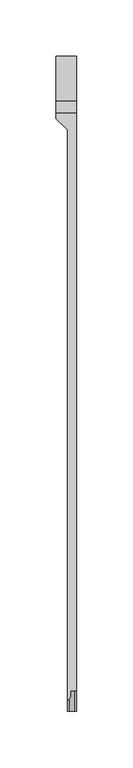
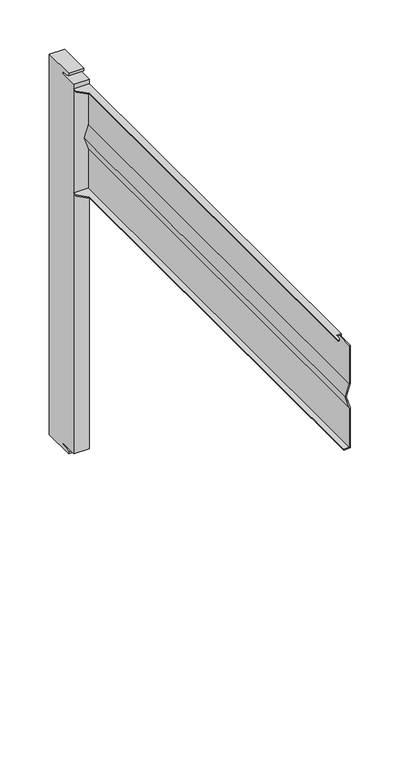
"""IFC4 building model written with IfcOpenShell, lengths in millimetres: proxy geometry, 046542_Motorhalterung."""

import ifcopenshell
import ifcopenshell.guid

model = None  # the IFC model being written
_history = None  # IfcOwnerHistory: only IFC2X3 demands one
_inside = {}  # id of a spatial element -> (the spatial element, [elements in it])
_under = {}  # id of a project, library or spatial element -> (it, [spatial elements below it])
_declared = {}  # id of a project -> (the project, [libraries it declares])
_typed = {}  # id of a type object -> (the type object, [elements of that type])
_made_of = {}  # id of a material, layer set ... -> (it, [elements and type objects made of it])


def new_model(schema):
    """Start an empty IFC model of exactly this schema.

    Asked for "IFC4X3", IfcOpenShell would pick the latest addendum, in which some entities
    have other attributes; the version numbers below select the first issue.
    IFC2X3 requires an IfcOwnerHistory on every rooted entity: one is made here for all.
    """
    global model, _history
    if schema == "IFC4X3":
        model = ifcopenshell.file(schema_version=(4, 3, 0, 0))
    else:
        model = ifcopenshell.file(schema=schema)
    _inside.clear()
    _under.clear()
    _declared.clear()
    _typed.clear()
    _made_of.clear()
    _history = None
    if model.schema == "IFC2X3":
        org = make("IfcOrganization", Name="unknown")
        user = make(
            "IfcPersonAndOrganization",
            ThePerson=make("IfcPerson", FamilyName="unknown"),
            TheOrganization=org,
        )
        app = make(
            "IfcApplication",
            ApplicationDeveloper=org,
            Version="unknown",
            ApplicationFullName="unknown",
            ApplicationIdentifier="unknown",
        )
        _history = make(
            "IfcOwnerHistory",
            OwningUser=user,
            OwningApplication=app,
            ChangeAction="ADDED",
            CreationDate=0,
        )
    return model


def make(cls, **values):
    """One entity of the class cls with the attributes given. An attribute that is None is left unset."""
    return model.create_entity(
        cls, **{name: value for name, value in values.items() if value is not None}
    )


def rooted(cls, **values):
    """An entity with a GlobalId (a new one), such as an element, a storey or a relation."""
    return make(cls, GlobalId=ifcopenshell.guid.new(), OwnerHistory=_history, **values)


def si_unit(unit_type, name, prefix=None):
    """IfcSIUnit, for example si_unit("LENGTHUNIT", "METRE", prefix="MILLI")."""
    return make("IfcSIUnit", UnitType=unit_type, Prefix=prefix, Name=name)


def assignment(units):
    """IfcUnitAssignment: the units of a project."""
    return None if units is None else make("IfcUnitAssignment", Units=units)


def point(xyz):
    """IfcCartesianPoint."""
    return None if xyz is None else make("IfcCartesianPoint", Coordinates=xyz)


def direction(xyz):
    """IfcDirection."""
    return None if xyz is None else make("IfcDirection", DirectionRatios=xyz)


def frame(location, z_axis=None, x_axis=None):
    """IfcAxis2Placement3D, a coordinate frame: its origin and axes. An axis left out is left unset."""
    return make(
        "IfcAxis2Placement3D",
        Location=point(location),
        Axis=direction(z_axis),
        RefDirection=direction(x_axis),
    )


def origin():
    """The frame at (0, 0, 0) with its axes left unset."""
    return frame((0.0, 0.0, 0.0))


def place(relative_to, where):
    """IfcLocalPlacement: puts the frame where relative to a parent placement (None: the world)."""
    return make(
        "IfcLocalPlacement", PlacementRelTo=relative_to, RelativePlacement=where
    )


def context(
    kind, dimensions, precision=None, world=None, true_north=None, identifier=None
):
    """IfcGeometricRepresentationContext, for example the 3D "Model" context."""
    return make(
        "IfcGeometricRepresentationContext",
        ContextIdentifier=identifier,
        ContextType=kind,
        CoordinateSpaceDimension=dimensions,
        Precision=precision,
        WorldCoordinateSystem=world,
        TrueNorth=true_north,
    )


def project(units=None, contexts=None):
    """IfcProject with its units and contexts."""
    return rooted(
        "IfcProject",
        Name="project",
        RepresentationContexts=contexts,
        UnitsInContext=assignment(units),
    )


def spatial(cls, under=None, at=None, **own):
    """A site, building, storey or space (cls), placed at a placement, below another one or the project."""
    s = rooted(cls, ObjectPlacement=at, **own)
    if under is not None:
        _under.setdefault(under.id(), (under, []))[1].append(s)
    return s


def polyline(points):
    """IfcPolyline through the points."""
    return make("IfcPolyline", Points=[point(p) for p in points])


def outline(outer, holes=None, kind="AREA"):
    """IfcArbitraryClosedProfileDef: a profile drawn as a closed curve; with holes, ...WithVoids."""
    if holes is None:
        return make("IfcArbitraryClosedProfileDef", ProfileType=kind, OuterCurve=outer)
    return make(
        "IfcArbitraryProfileDefWithVoids",
        ProfileType=kind,
        OuterCurve=outer,
        InnerCurves=holes,
    )


def extrude(swept, where, along, depth):
    """IfcExtrudedAreaSolid: the profile swept, set in the frame where, extruded along a direction by depth."""
    return make(
        "IfcExtrudedAreaSolid",
        SweptArea=swept,
        Position=where,
        ExtrudedDirection=direction(along),
        Depth=depth,
    )


def faces_of(points, faces, orient=None, outer=None):
    """IfcFace entities. A face is a list of loops; a loop is a list of indices into points, from 0.

    orient and outer hold one flag for each loop. By default every Orientation is true, the
    first loop of a face is its IfcFaceOuterBound and the others are IfcFaceBound.
    """
    made = []
    for i, loops in enumerate(faces):
        bounds = []
        for j, loop in enumerate(loops):
            is_outer = j == 0 if outer is None else outer[i][j]
            bounds.append(
                make(
                    "IfcFaceOuterBound" if is_outer else "IfcFaceBound",
                    Bound=make("IfcPolyLoop", Polygon=[points[k] for k in loop]),
                    Orientation=True if orient is None else orient[i][j],
                )
            )
        made.append(make("IfcFace", Bounds=bounds))
    return made


def faceted_brep(points, faces, orient=None, outer=None, voids=None):
    """IfcFacetedBrep: a solid bounded by flat faces; with voids (closed shells), ...WithVoids."""
    shared = [point(p) for p in points]
    hull = make("IfcClosedShell", CfsFaces=faces_of(shared, faces, orient, outer))
    if voids is None:
        return make("IfcFacetedBrep", Outer=hull)
    return make(
        "IfcFacetedBrepWithVoids",
        Outer=hull,
        Voids=[
            make(cls, CfsFaces=faces_of(shared, fs, o, b)) for cls, fs, o, b in voids
        ],
    )


def shape(context_of_items, identifier, shape_type, items):
    """IfcShapeRepresentation: the items that make up one representation, for example the "Body"."""
    return make(
        "IfcShapeRepresentation",
        ContextOfItems=context_of_items,
        RepresentationIdentifier=identifier,
        RepresentationType=shape_type,
        Items=items,
    )


def source(mapping_origin, context_of_items, identifier, shape_type, items):
    """IfcRepresentationMap: a shape defined once, which mapped items show again and again."""
    return make(
        "IfcRepresentationMap",
        MappingOrigin=mapping_origin,
        MappedRepresentation=shape(context_of_items, identifier, shape_type, items),
    )


def transform(
    local_origin,
    x_axis=None,
    y_axis=None,
    z_axis=None,
    scale=None,
    scale2=None,
    scale3=None,
    uniform=True,
):
    """IfcCartesianTransformationOperator3D, or its non-uniform kind. x_axis, y_axis, z_axis: its Axis1, 2, 3."""
    if uniform:
        return make(
            "IfcCartesianTransformationOperator3D",
            Axis1=direction(x_axis),
            Axis2=direction(y_axis),
            LocalOrigin=point(local_origin),
            Scale=scale,
            Axis3=direction(z_axis),
        )
    return make(
        "IfcCartesianTransformationOperator3DnonUniform",
        Axis1=direction(x_axis),
        Axis2=direction(y_axis),
        LocalOrigin=point(local_origin),
        Scale=scale,
        Axis3=direction(z_axis),
        Scale2=scale2,
        Scale3=scale3,
    )


def mapped(mapping_source, mapping_target):
    """IfcMappedItem: shows the shape of a source again, moved by a transform."""
    return make(
        "IfcMappedItem", MappingSource=mapping_source, MappingTarget=mapping_target
    )


def made_of(thing, what):
    """Note that an element or type object is made of a material, layer set ...; save() writes the relation."""
    if what is not None:
        _made_of.setdefault(what.id(), (what, []))[1].append(thing)
    return thing


def element(
    cls,
    number,
    at=None,
    inside=None,
    cuts=None,
    type_object=None,
    material=None,
    context=None,
    identifier="Body",
    shape_type=None,
    held_by="IfcProductDefinitionShape",
    body=None,
    shapes=None,
    **own,
):
    """One element of the class cls, such as IfcWall. Its Tag is "e" and its number.

    at: its placement. inside: the storey or other place that contains it. cuts: it is an
    opening in that element (IfcRelVoidsElement). A single representation is given by context,
    identifier, shape_type and body (its items); several are given by shapes. held_by: the class
    of the entity that holds the representations. save() writes the other relations.
    """
    e = rooted(cls, Tag="e%d" % number, ObjectPlacement=at, **own)
    if body is not None:
        shapes = [shape(context, identifier, shape_type, body)]
    if shapes is not None:
        e.Representation = make(held_by, Representations=shapes)
    if inside is not None:
        _inside.setdefault(inside.id(), (inside, []))[1].append(e)
    if cuts is not None:
        rooted(
            "IfcRelVoidsElement", RelatingBuildingElement=cuts, RelatedOpeningElement=e
        )
    if type_object is not None:
        _typed.setdefault(type_object.id(), (type_object, []))[1].append(e)
    return made_of(e, material)


def aggregate(whole, parts):
    """IfcRelAggregates: a whole, such as a stair, and the parts it consists of."""
    return rooted("IfcRelAggregates", RelatingObject=whole, RelatedObjects=parts)


def save(model, path):
    """Write the relations noted so far, then the file.

    IfcRelAggregates (storeys below a building ...), IfcRelContainedInSpatialStructure (elements
    in a storey), IfcRelDefinesByType, IfcRelAssociatesMaterial and IfcRelDeclares: one each for
    every whole, place, type object, material and project.
    """
    for whole, parts in _under.values():
        aggregate(whole, parts)
    for where, things in _inside.values():
        rooted(
            "IfcRelContainedInSpatialStructure",
            RelatedElements=things,
            RelatingStructure=where,
        )
    for kind, things in _typed.values():
        rooted("IfcRelDefinesByType", RelatedObjects=things, RelatingType=kind)
    for what, things in _made_of.values():
        rooted("IfcRelAssociatesMaterial", RelatedObjects=things, RelatingMaterial=what)
    for by, libraries in _declared.values():
        rooted("IfcRelDeclares", RelatingContext=by, RelatedDefinitions=libraries)
    model.write(path)


def generic_models_ada9aacc(model_context):
    return source(origin(), model_context, "Body", "SolidModel", [
        extrude(outline(polyline([(886.44, -14.425), (925.5, -14.425), (925.5, -485.575), (886.44, -485.575), (886.44, -482.8948512), (891.44, -481.075), (898.44, -481.075), (898.44, -478.875), (875.5, -478.875), (875.5, -21.125), (898.44, -21.125), (898.44, -18.925), (891.44, -18.925), (886.44, -17.1051488), (886.44, -14.425)])), frame((4.0, 0.0, 0.0), z_axis=(1.0, 0.0, 0.0), x_axis=(0.0, 1.0, 0.0)), (0.0, 0.0, 1.0), 18.0),
        faceted_brep([(22.0, 875.5, -156.5), (22.0, 345.5, -156.5), (14.0, 345.5, -156.5), (14.0, 860.5, -156.5), (4.0, 870.5, -156.5), (4.0, 875.5, -156.5), (22.0, 875.5, -106.5), (22.0, 345.5, -106.5), (20.75, 345.5, -155.25), (20.75, 345.5, -106.7028471), (20.75, 875.5, -106.7028471), (20.75, 875.5, -155.25), (22.0, 364.0, -26.5), (22.0, 364.0, -29.23), (22.0, 345.5, -29.23), (22.0, 345.5, -76.5), (22.0, 875.5, -76.5), (22.0, 875.5, -26.5), (20.75, 345.5, -76.2971529), (20.75, 345.5, -29.23), (20.75, 364.0, -29.23), (20.75, 364.0, -27.75), (20.75, 875.5, -27.75), (20.75, 875.5, -76.2971529), (14.0, 345.5, -155.25), (17.0, 345.5, -91.5), (15.6823843, 345.5, -91.5), (15.6823843, 875.5, -91.5), (17.0, 875.5, -91.5), (4.0, 875.5, -27.75), (4.0, 875.5, -26.5), (4.0, 875.5, -155.25), (4.0, 870.5, -155.25), (14.0, 860.5, -155.25), (16.5, 364.0, -26.5), (16.5, 364.0, -27.75), (16.5, 358.5, -27.75), (15.0566243, 356.0, -27.75), (14.0, 356.0, -27.75), (14.0, 860.5, -27.75), (4.0, 870.5, -27.75), (4.0, 870.5, -26.5), (14.0, 860.5, -26.5), (14.0, 356.0, -26.5), (15.0566243, 356.0, -26.5), (16.5, 358.5, -26.5)], [[[0, 1, 2, 3, 4, 5]], [[0, 6, 7, 1]], [[8, 9, 10, 11]], [[12, 13, 14, 15, 16, 17]], [[18, 19, 20, 21, 22, 23]], [[9, 8, 24, 2, 1, 7, 25, 15, 14, 19, 18, 26]], [[9, 26, 27, 10]], [[15, 25, 28, 16]], [[25, 7, 6, 28]], [[11, 10, 27, 23, 22, 29, 30, 17, 16, 28, 6, 0, 5, 31]], [[8, 11, 31, 32, 33, 24]], [[26, 18, 23, 27]], [[12, 34, 35, 21, 20, 13]], [[21, 35, 36, 37, 38, 39, 40, 29, 22]], [[34, 12, 17, 30, 41, 42, 43, 44, 45]], [[41, 30, 29, 40]], [[45, 44, 37, 36]], [[20, 19, 14, 13]], [[39, 42, 41, 40]], [[43, 42, 39, 38]], [[4, 3, 33, 32]], [[5, 4, 32, 31]], [[24, 33, 3, 2]], [[37, 44, 43, 38]], [[35, 34, 45, 36]]]),
    ])


if __name__ == "__main__":
    model = new_model("IFC4")
    model_context = context("Model", 3, world=origin())
    ifc_project = project(units=[si_unit("LENGTHUNIT", "METRE", prefix="MILLI")], contexts=[model_context])
    site = spatial("IfcSite", under=ifc_project)
    building = spatial("IfcBuilding", under=site)
    placement = place(None, origin())
    generic_models_shape = generic_models_ada9aacc(model_context)
    element("IfcBuildingElementProxy", 1, Name="046542_Motorhalterung", ObjectType="046542_Motorhalterung", at=placement, inside=building, context=model_context, shape_type="MappedRepresentation", body=[
        mapped(generic_models_shape, transform((0.0, 0.0, 0.0), x_axis=(1.0, 0.0, 0.0), y_axis=(0.0, 1.0, 0.0), z_axis=(0.0, 0.0, 1.0))),
    ])
    save(model, "model.ifc")
